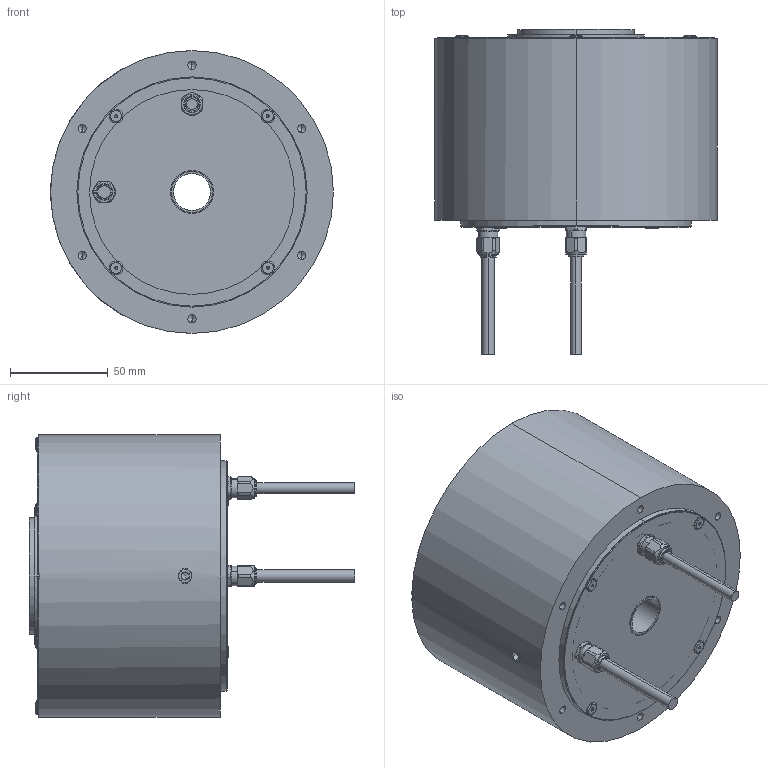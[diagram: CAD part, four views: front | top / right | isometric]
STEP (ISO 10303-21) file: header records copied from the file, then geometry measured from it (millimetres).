
FILE_DESCRIPTION (( 'STEP AP214' ), '1' );
FILE_NAME ('ND140-95-LSP(INC).step', '2024-03-26T00:41:03', ( '' ), ( '' ), 'SwSTEP 2.0', 'SolidWorks 2023', '' );
FILE_SCHEMA (( 'AUTOMOTIVE_DESIGN' ));
Length unit declared in the file: millimetre
Products named in the file (1): ND140-95-LSP(INC)
Bounding box: 145 x 166.6 x 145 mm (x, y, z)
Volume: 273133.2 mm3; surface area: 181977.1 mm2
Topology: 19 solids, 19 shells, 602 faces, 1508 edges, 940 vertices
Faces by surface type: cylinder 353, cone 112, plane 105, torus 22, sphere 10
Entity records: 19221 total; most frequent: CARTESIAN_POINT 4647, DIRECTION 3110, ORIENTED_EDGE 2908, EDGE_CURVE 1454, AXIS2_PLACEMENT_3D 1287, VERTEX_POINT 940, EDGE_LOOP 710, CIRCLE 684
